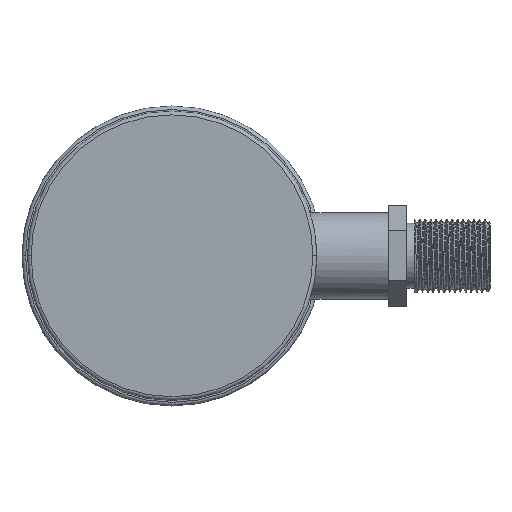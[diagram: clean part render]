
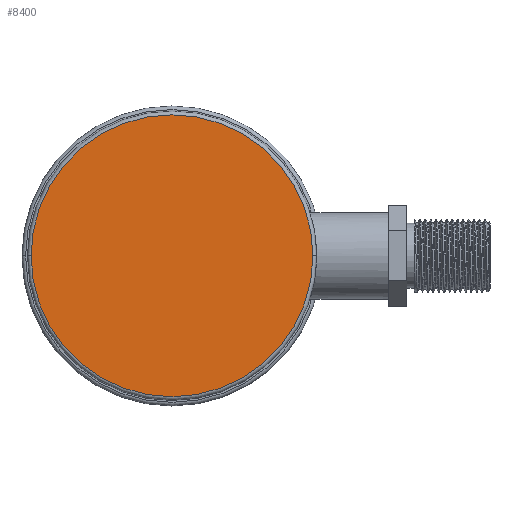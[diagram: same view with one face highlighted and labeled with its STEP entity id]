
A CAD part, top view. The second image highlights one B-rep face of the part: STEP entity #8400.
In plain terms, the highlighted planar face has unit normal (0, 0, 1).
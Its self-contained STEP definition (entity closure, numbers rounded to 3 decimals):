
#125=CARTESIAN_POINT('',(0.,0.,20.5));
#126=DIRECTION('',(0.,0.,1.));
#127=DIRECTION('',(1.,0.,0.));
#128=AXIS2_PLACEMENT_3D('',#125,#126,#127);
#130=CARTESIAN_POINT('',(0.,0.,20.5));
#131=DIRECTION('',(0.,0.,1.));
#132=DIRECTION('',(-1.,0.,0.));
#133=AXIS2_PLACEMENT_3D('',#130,#131,#132);
#6972=CARTESIAN_POINT('',(39.,0.,20.5));
#6973=CARTESIAN_POINT('',(-39.,0.,20.5));
#6974=VERTEX_POINT('',#6972);
#6975=VERTEX_POINT('',#6973);
#8390=CARTESIAN_POINT('',(0.,0.,20.5));
#8391=DIRECTION('',(0.,0.,1.));
#8392=DIRECTION('',(1.,0.,0.));
#8393=AXIS2_PLACEMENT_3D('',#8390,#8391,#8392);
#8394=PLANE('',#8393);
#8395=ORIENTED_EDGE('',*,*,#8380,.F.);
#8397=ORIENTED_EDGE('',*,*,#8396,.F.);
#8398=EDGE_LOOP('',(#8395,#8397));
#8399=FACE_OUTER_BOUND('',#8398,.F.);
#8400=ADVANCED_FACE('',(#8399),#8394,.T.);
#129=CIRCLE('',#128,39.);
#134=CIRCLE('',#133,39.);
#8380=EDGE_CURVE('',#6974,#6975,#129,.T.);
#8396=EDGE_CURVE('',#6975,#6974,#134,.T.);
